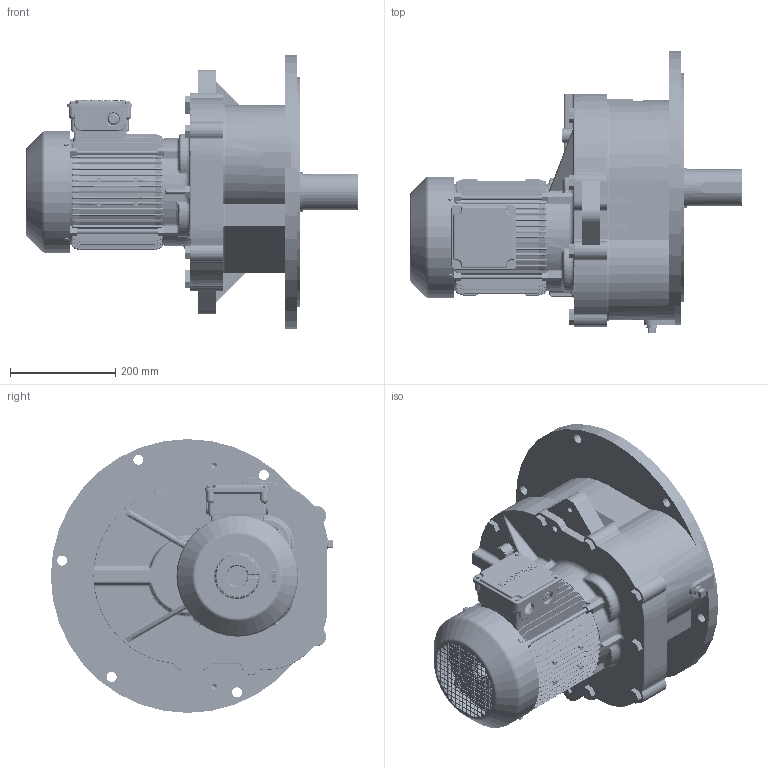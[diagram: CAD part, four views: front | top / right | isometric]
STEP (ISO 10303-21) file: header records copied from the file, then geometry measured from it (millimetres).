
FILE_DESCRIPTION (( 'STEP AP214' ), '1' );
FILE_NAME ('EK2DO100777H0001_F1VA27_3.7KW_R75~120_CUSTOMER.stp', '2024-03-19T05:44:16', ( 'admin' ), ( '' ), 'SwSTEP 2.0', 'SolidWorks 2022', '' );
FILE_SCHEMA (( 'AUTOMOTIVE_DESIGN' ));
Length unit declared in the file: millimetre
Products named in the file (1): EK2DO100777H0001_F1VA27_3.7KW_R75~120_CUSTOMER
Bounding box: 630.5 x 536.15 x 520 mm (x, y, z)
Volume: 28634205.9 mm3; surface area: 2210697.1 mm2
Topology: 32 solids, 34 shells, 8749 faces, 22109 edges, 13393 vertices
Faces by surface type: cylinder 3056, bspline 2439, plane 2038, torus 659, cone 342, sphere 215
Entity records: 435880 total; most frequent: CARTESIAN_POINT 144000, ORIENTED_EDGE 43784, DIRECTION 37354, EDGE_CURVE 21892, AXIS2_PLACEMENT_3D 14279, VERTEX_POINT 13360, EDGE_LOOP 9368, LINE 8796
